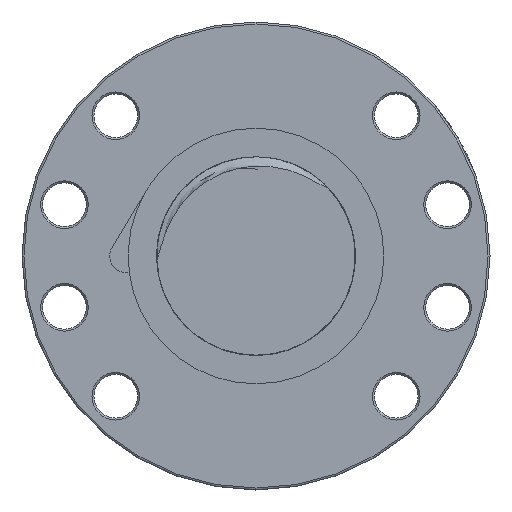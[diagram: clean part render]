
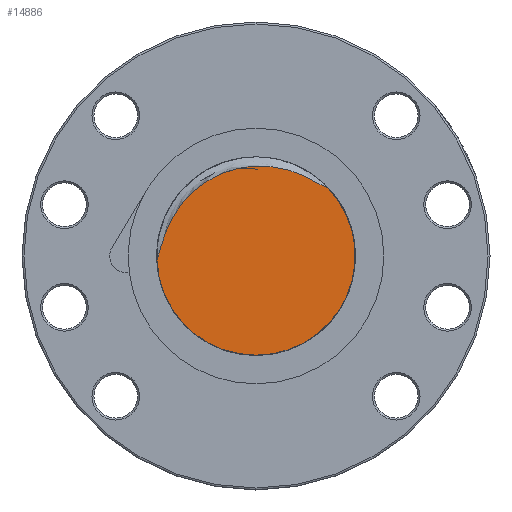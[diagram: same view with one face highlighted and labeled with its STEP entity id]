
A CAD part, left-side view. The second image highlights one B-rep face of the part: STEP entity #14886.
In plain terms, the highlighted planar face has unit normal (-1, 0, 0).
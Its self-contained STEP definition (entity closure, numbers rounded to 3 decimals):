
#2516 = CARTESIAN_POINT ( 'NONE',  ( -189., 24.976, -1.104 ) ) ;
#2517 = CARTESIAN_POINT ( 'NONE',  ( -189., 24.865, -0.826 ) ) ;
#2518 = CARTESIAN_POINT ( 'NONE',  ( -189., 24.776, -0.541 ) ) ;
#2519 = CARTESIAN_POINT ( 'NONE',  ( -189., 24.606, 0.032 ) ) ;
#2520 = CARTESIAN_POINT ( 'NONE',  ( -189., 24.527, 0.32 ) ) ;
#2521 = CARTESIAN_POINT ( 'NONE',  ( -189., 24.292, 1.185 ) ) ;
#2522 = CARTESIAN_POINT ( 'NONE',  ( -189., 24.139, 1.763 ) ) ;
#2523 = CARTESIAN_POINT ( 'NONE',  ( -189., 23.815, 2.912 ) ) ;
#2524 = CARTESIAN_POINT ( 'NONE',  ( -189., 23.644, 3.485 ) ) ;
#2525 = CARTESIAN_POINT ( 'NONE',  ( -189., 23.274, 4.622 ) ) ;
#2526 = CARTESIAN_POINT ( 'NONE',  ( -189., 23.076, 5.187 ) ) ;
#2527 = CARTESIAN_POINT ( 'NONE',  ( -189., 22.439, 6.857 ) ) ;
#2528 = CARTESIAN_POINT ( 'NONE',  ( -189., 21.956, 7.94 ) ) ;
#2529 = CARTESIAN_POINT ( 'NONE',  ( -189., 20.854, 10.036 ) ) ;
#2530 = CARTESIAN_POINT ( 'NONE',  ( -189., 20.236, 11.05 ) ) ;
#2531 = CARTESIAN_POINT ( 'NONE',  ( -189., 19.199, 12.514 ) ) ;
#2532 = CARTESIAN_POINT ( 'NONE',  ( -189., 18.837, 12.991 ) ) ;
#2533 = CARTESIAN_POINT ( 'NONE',  ( -189., 18.086, 13.912 ) ) ;
#2534 = CARTESIAN_POINT ( 'NONE',  ( -189., 17.696, 14.358 ) ) ;
#2535 = CARTESIAN_POINT ( 'NONE',  ( -189., 16.486, 15.652 ) ) ;
#2536 = CARTESIAN_POINT ( 'NONE',  ( -189., 15.623, 16.456 ) ) ;
#2537 = CARTESIAN_POINT ( 'NONE',  ( -189., 14.243, 17.57 ) ) ;
#2538 = CARTESIAN_POINT ( 'NONE',  ( -189., 13.768, 17.925 ) ) ;
#2539 = CARTESIAN_POINT ( 'NONE',  ( -189., 12.788, 18.605 ) ) ;
#2540 = CARTESIAN_POINT ( 'NONE',  ( -189., 12.281, 18.93 ) ) ;
#2541 = CARTESIAN_POINT ( 'NONE',  ( -189., 10.742, 19.84 ) ) ;
#2542 = CARTESIAN_POINT ( 'NONE',  ( -189., 9.684, 20.367 ) ) ;
#2543 = CARTESIAN_POINT ( 'NONE',  ( -189., 7.506, 21.268 ) ) ;
#2544 = CARTESIAN_POINT ( 'NONE',  ( -189., 6.385, 21.642 ) ) ;
#2545 = CARTESIAN_POINT ( 'NONE',  ( -189., 4.656, 22.081 ) ) ;
#2546 = CARTESIAN_POINT ( 'NONE',  ( -189., 4.068, 22.208 ) ) ;
#2547 = CARTESIAN_POINT ( 'NONE',  ( -189., 2.891, 22.417 ) ) ;
#2548 = CARTESIAN_POINT ( 'NONE',  ( -189., 2.301, 22.5 ) ) ;
#2549 = CARTESIAN_POINT ( 'NONE',  ( -189., 0.532, 22.685 ) ) ;
#2550 = CARTESIAN_POINT ( 'NONE',  ( -189., -0.65, 22.725 ) ) ;
#2551 = CARTESIAN_POINT ( 'NONE',  ( -189., -2.427, 22.663 ) ) ;
#2552 = CARTESIAN_POINT ( 'NONE',  ( -189., -3.02, 22.622 ) ) ;
#2553 = CARTESIAN_POINT ( 'NONE',  ( -189., -4.207, 22.498 ) ) ;
#2554 = CARTESIAN_POINT ( 'NONE',  ( -189., -4.802, 22.415 ) ) ;
#2555 = CARTESIAN_POINT ( 'NONE',  ( -189., -7.738, 21.903 ) ) ;
#2556 = CARTESIAN_POINT ( 'NONE',  ( -189., -9.978, 21.181 ) ) ;
#2557 = CARTESIAN_POINT ( 'NONE',  ( -189., -13.211, 19.733 ) ) ;
#2558 = CARTESIAN_POINT ( 'NONE',  ( -189., -14.269, 19.187 ) ) ;
#2559 = CARTESIAN_POINT ( 'NONE',  ( -189., -15.83, 18.313 ) ) ;
#2560 = CARTESIAN_POINT ( 'NONE',  ( -189., -16.346, 18.013 ) ) ;
#2561 = CARTESIAN_POINT ( 'NONE',  ( -189., -17.121, 17.567 ) ) ;
#2562 = CARTESIAN_POINT ( 'NONE',  ( -189., -17.38, 17.419 ) ) ;
#2629 = CARTESIAN_POINT ( 'NONE',  ( -189., -17.904, 17.134 ) ) ;
#2630 = CARTESIAN_POINT ( 'NONE',  ( -189., -18.17, 16.996 ) ) ;
#2631 = CARTESIAN_POINT ( 'NONE',  ( -189., -18.443, 16.878 ) ) ;
#2633 = B_SPLINE_CURVE_WITH_KNOTS ( 'NONE', 3,
 ( #2631, #2630, #2629, #2562, #2561, #2560, #2559, #2558, #2557, #2556, #2555, #2554, #2553, #2552, #2551, #2550, #2549, #2548, #2547, #2546, #2545, #2544, #2543, #2542, #2541, #2540, #2539, #2538, #2537, #2536, #2535, #2534, #2533, #2532, #2531, #2530, #2529, #2528, #2527, #2526, #2525, #2524, #2523, #2522, #2521, #2520, #2519, #2518, #2517, #2516 ),
 .UNSPECIFIED., .F., .F.,
 ( 4, 2, 2, 2, 2, 2, 2, 2, 2, 2, 2, 2, 2, 2, 2, 2, 2, 2, 2, 2, 2, 2, 2, 2, 4 ),
 ( 0.013, 0.014, 0.015, 0.016, 0.02, 0.027, 0.029, 0.03, 0.034, 0.036, 0.038, 0.041, 0.045, 0.046, 0.048, 0.052, 0.054, 0.055, 0.059, 0.062, 0.064, 0.066, 0.068, 0.069, 0.069 ),
 .UNSPECIFIED. ) ;
#2635 = DIRECTION ( 'NONE',  ( 0., 0., -1. ) ) ;
#2636 = DIRECTION ( 'NONE',  ( 1., 0., 0. ) ) ;
#2637 = CARTESIAN_POINT ( 'NONE',  ( -189., 0., 0. ) ) ;
#2638 = AXIS2_PLACEMENT_3D ( 'NONE', #2637, #2636, #2635 ) ;
#2639 = PLANE ( 'NONE',  #2638 ) ;
#2644 = FACE_OUTER_BOUND ( 'NONE', #14887, .T. ) ;
#3504 = DIRECTION ( 'NONE',  ( 0., 1., 0. ) ) ;
#3505 = DIRECTION ( 'NONE',  ( 1., 0., 0. ) ) ;
#3506 = CARTESIAN_POINT ( 'NONE',  ( -189., 0., 0. ) ) ;
#3507 = AXIS2_PLACEMENT_3D ( 'NONE', #3506, #3505, #3504 ) ;
#3508 = CIRCLE ( 'NONE', #3507, 25. ) ;
#3884 = CARTESIAN_POINT ( 'NONE',  ( -189., -18.443, 16.878 ) ) ;
#14351 = VERTEX_POINT ( 'NONE', #17084 ) ;
#14447 = VERTEX_POINT ( 'NONE', #17340 ) ;
#14451 = EDGE_CURVE ( 'NONE', #14447, #14351, #17339, .T. ) ;
#14886 = ADVANCED_FACE ( 'NONE', ( #2644 ), #2639, .F. ) ;
#14887 = EDGE_LOOP ( 'NONE', ( #14888, #14889, #14891 ) ) ;
#14888 = ORIENTED_EDGE ( 'NONE', *, *, #14969, .F. ) ;
#14889 = ORIENTED_EDGE ( 'NONE', *, *, #14890, .T. ) ;
#14890 = EDGE_CURVE ( 'NONE', #14971, #14351, #2633, .T. ) ;
#14891 = ORIENTED_EDGE ( 'NONE', *, *, #14451, .F. ) ;
#14969 = EDGE_CURVE ( 'NONE', #14971, #14447, #3508, .T. ) ;
#14971 = VERTEX_POINT ( 'NONE', #3884 ) ;
#17084 = CARTESIAN_POINT ( 'NONE',  ( -189., 24.976, -1.104 ) ) ;
#17335 = DIRECTION ( 'NONE',  ( 0., 1., 0. ) ) ;
#17336 = DIRECTION ( 'NONE',  ( 1., 0., 0. ) ) ;
#17337 = CARTESIAN_POINT ( 'NONE',  ( -189., 0., 0. ) ) ;
#17338 = AXIS2_PLACEMENT_3D ( 'NONE', #17337, #17336, #17335 ) ;
#17339 = CIRCLE ( 'NONE', #17338, 25. ) ;
#17340 = CARTESIAN_POINT ( 'NONE',  ( -189., 0., -25. ) ) ;
